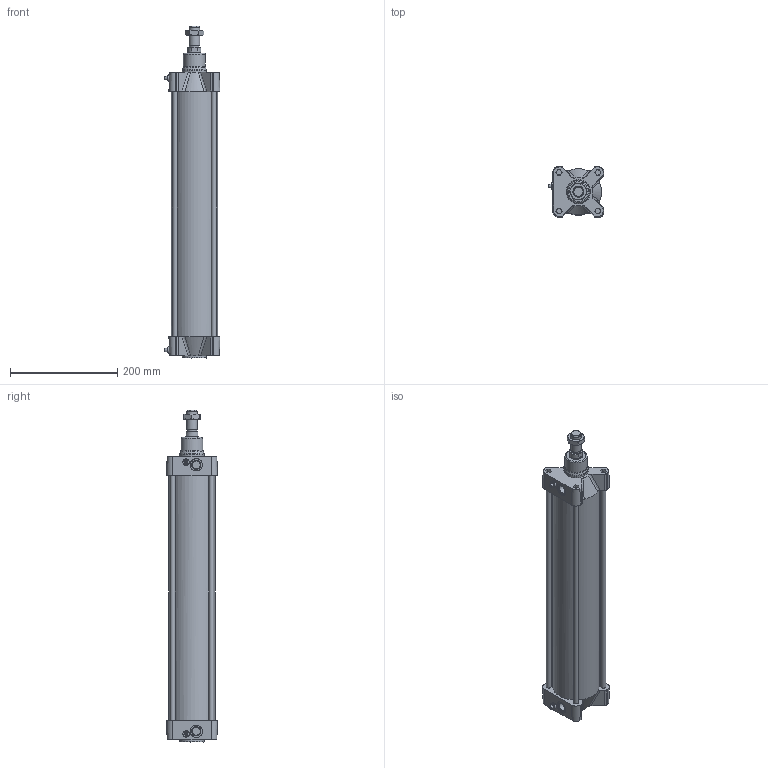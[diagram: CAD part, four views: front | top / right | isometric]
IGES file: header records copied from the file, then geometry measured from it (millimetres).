
Global section: file name: 1393_080_0400_01; native system: Autodesk Inventor 2014; preprocessor: unknown; author: A. Manieri; date: 20151130.150810; units: millimetre
Bounding box: 104 x 95 x 618 mm (x, y, z)
Volume: 1495444.2 mm3; surface area: 426100.7 mm2
Topology: 3 solids, 5 shells, 233 faces, 578 edges, 377 vertices
Faces by surface type: bspline 233
